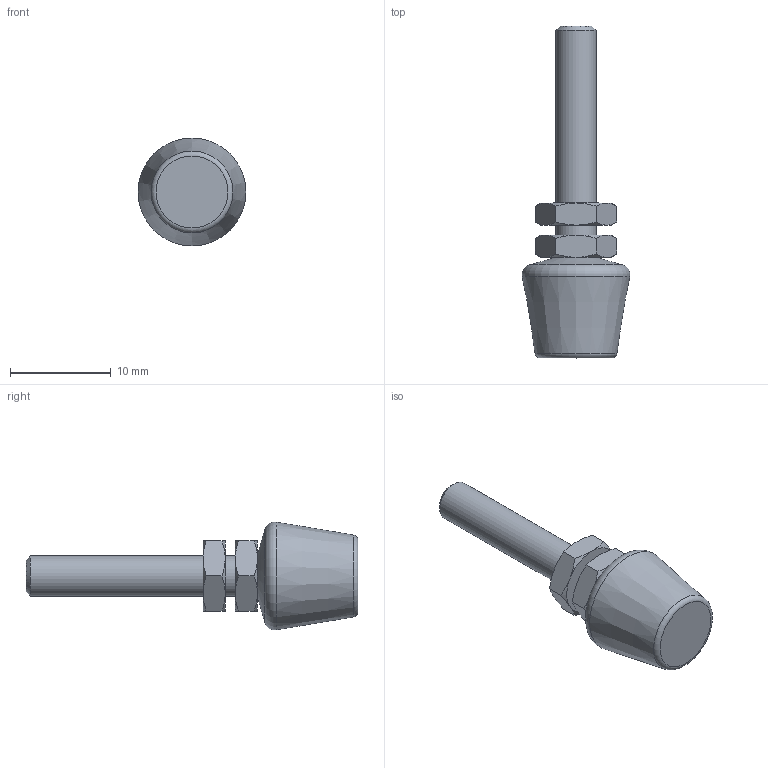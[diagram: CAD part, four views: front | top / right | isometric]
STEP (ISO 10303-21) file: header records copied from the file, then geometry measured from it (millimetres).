
FILE_DESCRIPTION( ( 'STEP AP203' ), '1' );
FILE_NAME( 'C:/Temp/Ganter_Step_05_03_2020/data/2_4/gn_708_1/gn_708_1_ni/Stainless Steel-Clamping bolt GN 708.1-M4-33-A-NI (0).stp', '2020-03-13T05:51:15', ( 'License CC BY-ND 4.0' ), ( 'CADENAS' ), ' ', 'PARTsolutions', ' ' );
FILE_SCHEMA( ( 'CONFIG_CONTROL_DESIGN' ) );
Length unit declared in the file: millimetre
Products named in the file (3): Stainless Steel-Clamping bolt GN 708.1-M4-33-A-NI (0); _Edelstahl-Andrueckschraube GN 708.1-M4-33-A-NI (0)-1; _Edelstahl-Andrueckschraube GN 708.1-M4-33-A-NI-2
Assembly tree (3 placements, depth 2):
  Stainless Steel-Clamping bolt GN 708.1-M4-33-A-NI (0)
    _Edelstahl-Andrueckschraube GN 708.1-M4-33-A-NI (0)-1
    _Edelstahl-Andrueckschraube GN 708.1-M4-33-A-NI-2  x2
Bounding box: 10.73 x 33 x 10.73 mm (x, y, z)
Volume: 1118 mm3; surface area: 963 mm2
Topology: 3 solids, 3 shells, 54 faces, 111 edges, 63 vertices
Faces by surface type: cone 31, plane 18, cylinder 3, torus 2
Full cylindrical faces by diameter (mm): 3.242 x2, 4 x1
Entity records: 922 total; most frequent: CARTESIAN_POINT 228, DIRECTION 122, ORIENTED_EDGE 106, AXIS2_PLACEMENT_3D 58, EDGE_CURVE 53, EDGE_LOOP 42, VERTEX_POINT 36, FACE_OUTER_BOUND 35
